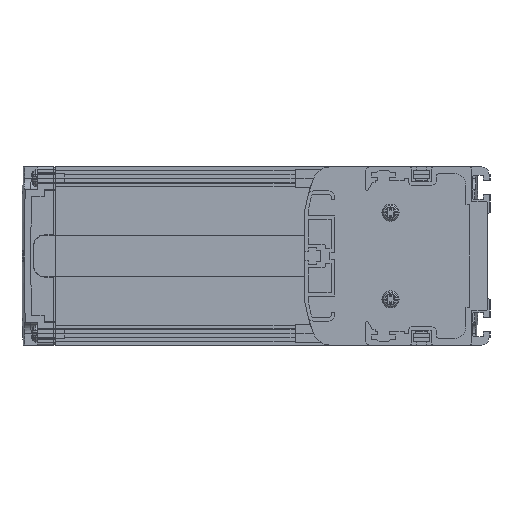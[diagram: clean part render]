
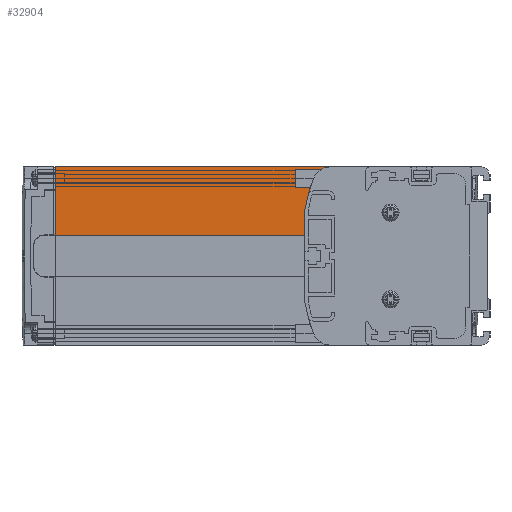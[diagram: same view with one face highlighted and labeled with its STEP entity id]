
A CAD part, left-side view. The second image highlights one B-rep face of the part: STEP entity #32904.
In plain terms, the highlighted planar face has unit normal (-1, 0, 0).
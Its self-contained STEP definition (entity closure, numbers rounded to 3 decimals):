
#5535=CARTESIAN_POINT('',(3.,79.,19.823));
#5536=DIRECTION('',(1.,0.,0.));
#5537=DIRECTION('',(0.,1.,0.));
#5538=AXIS2_PLACEMENT_3D('',#5535,#5536,#5537);
#5556=DIRECTION('',(0.,0.,-1.));
#5557=VECTOR('',#5556,10.723);
#5558=CARTESIAN_POINT('',(3.,81.,19.823));
#5559=LINE('',#5558,#5557);
#5940=CARTESIAN_POINT('',(3.,2.235,6.));
#5941=DIRECTION('',(1.,0.,0.));
#5942=DIRECTION('',(0.,0.984,0.177));
#5943=AXIS2_PLACEMENT_3D('',#5940,#5941,#5942);
#5953=DIRECTION('',(0.,0.,-1.));
#5954=VECTOR('',#5953,29.9);
#5955=CARTESIAN_POINT('',(3.,190.,39.));
#5956=LINE('',#5955,#5954);
#8023=DIRECTION('',(0.,-1.,0.));
#8024=VECTOR('',#8023,109.);
#8025=CARTESIAN_POINT('',(3.,190.,9.1));
#8026=LINE('',#8025,#8024);
#10815=DIRECTION('',(0.,-1.,0.));
#10816=VECTOR('',#10815,120.245);
#10817=CARTESIAN_POINT('',(3.,190.,39.));
#10818=LINE('',#10817,#10816);
#11890=CARTESIAN_POINT('',(3.,69.755,31.));
#11891=DIRECTION('',(-1.,0.,0.));
#11892=DIRECTION('',(0.,0.,1.));
#11893=AXIS2_PLACEMENT_3D('',#11890,#11891,#11892);
#19792=CARTESIAN_POINT('',(3.,190.,39.));
#19793=VERTEX_POINT('',#19792);
#19794=CARTESIAN_POINT('',(3.,190.,9.1));
#19795=VERTEX_POINT('',#19794);
#24259=CARTESIAN_POINT('',(3.,81.,9.1));
#24260=VERTEX_POINT('',#24259);
#24301=CARTESIAN_POINT('',(3.,69.755,39.));
#24302=CARTESIAN_POINT('',(3.,77.257,33.778));
#24303=VERTEX_POINT('',#24301);
#24304=VERTEX_POINT('',#24302);
#24305=CARTESIAN_POINT('',(3.,80.968,20.177));
#24306=VERTEX_POINT('',#24305);
#24307=CARTESIAN_POINT('',(3.,81.,19.823));
#24308=VERTEX_POINT('',#24307);
#32886=CARTESIAN_POINT('',(3.,105.,24.05));
#32887=DIRECTION('',(1.,0.,0.));
#32888=DIRECTION('',(0.,0.,1.));
#32889=AXIS2_PLACEMENT_3D('',#32886,#32887,#32888);
#32890=PLANE('',#32889);
#32892=ORIENTED_EDGE('',*,*,#32891,.T.);
#32893=ORIENTED_EDGE('',*,*,#32838,.F.);
#32894=ORIENTED_EDGE('',*,*,#32267,.F.);
#32895=ORIENTED_EDGE('',*,*,#32285,.T.);
#32897=ORIENTED_EDGE('',*,*,#32896,.F.);
#32899=ORIENTED_EDGE('',*,*,#32898,.F.);
#32901=ORIENTED_EDGE('',*,*,#32900,.T.);
#32902=EDGE_LOOP('',(#32892,#32893,#32894,#32895,#32897,#32899,#32901));
#32903=FACE_OUTER_BOUND('',#32902,.F.);
#32904=ADVANCED_FACE('',(#32903),#32890,.F.);
#5539=CIRCLE('',#5538,2.);
#5944=CIRCLE('',#5943,80.);
#11894=CIRCLE('',#11893,8.);
#32267=EDGE_CURVE('',#24308,#24306,#5539,.T.);
#32285=EDGE_CURVE('',#24308,#24260,#5559,.T.);
#32838=EDGE_CURVE('',#24306,#24304,#5944,.T.);
#32891=EDGE_CURVE('',#24303,#24304,#11894,.T.);
#32896=EDGE_CURVE('',#19795,#24260,#8026,.T.);
#32898=EDGE_CURVE('',#19793,#19795,#5956,.T.);
#32900=EDGE_CURVE('',#19793,#24303,#10818,.T.);
